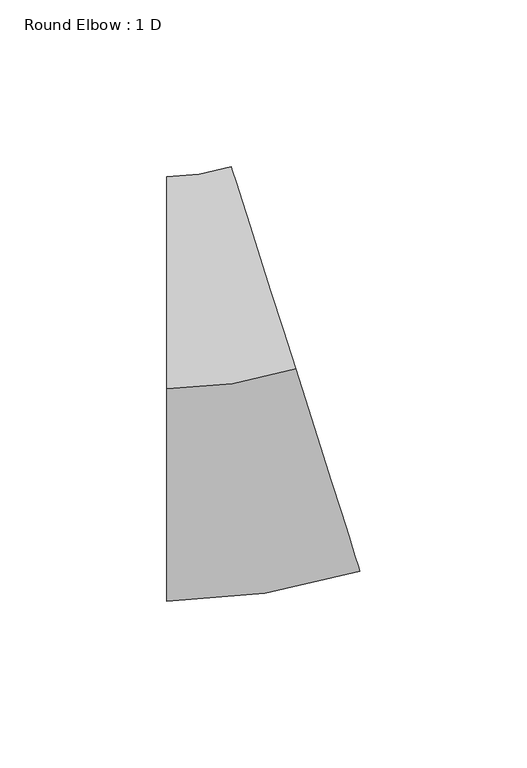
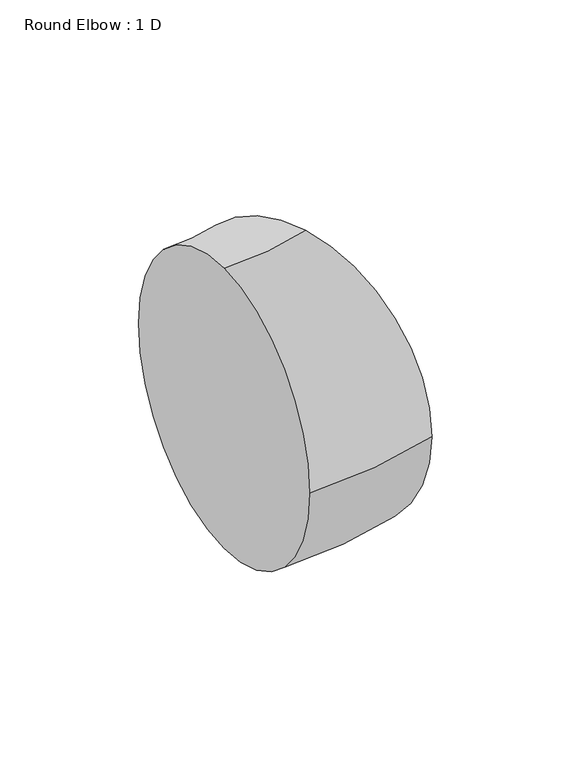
"""IFC4 building model written with IfcOpenShell, lengths in millimetres: duct fitting geometry, Round Elbow : 1 D."""

from ifc_helpers import new_model, si_unit, point, frame, origin, place, context, project, spatial, circle_curve, ellipse_curve, trimmed, source, transform, mapped, element, save
from ifc_brep_helpers import plane_surface, revolved_surface, advanced_brep


def round_elbow_1_d_01278626(model_context):
    return source(origin(), model_context, "Body", "AdvancedBrep", [
        advanced_brep(
        [(-19.724203, 0.0, 63.5), (-19.724203, 63.5, 0.0), (-19.724203, 0.0, -63.5), (-19.724203, -63.5, 0.0), (18.7950873, 5.9823803, 63.5), (38.0547325, -54.5264295, 0.0), (18.7950873, 5.9823803, -63.5), (-0.4645578, 66.4911902, 0.0)],
        [
            (0, 1, circle_curve(frame((-19.724203, 0.0, 0.0), z_axis=(-1.0, 0.0, 0.0), x_axis=(0.0, 1.0, 0.0)), 63.5)),
            (1, 2, circle_curve(frame((-19.724203, 0.0, 0.0), z_axis=(-1.0, 0.0, 0.0), x_axis=(0.0, 1.0, 0.0)), 63.5)),
            (2, 3, circle_curve(frame((-19.724203, 0.0, 0.0), z_axis=(-1.0, 0.0, 0.0), x_axis=(0.0, 1.0, 0.0)), 63.5)),
            (3, 0, circle_curve(frame((-19.724203, 0.0, 0.0), z_axis=(-1.0, 0.0, 0.0), x_axis=(0.0, 1.0, 0.0)), 63.5)),
            (4, 5, circle_curve(frame((18.7950873, 5.9823803, 0.0), z_axis=(0.9528946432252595, 0.3033014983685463, 0.0), x_axis=(-0.3033014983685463, 0.9528946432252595, 0.0)), 63.5)),
            (5, 6, circle_curve(frame((18.7950873, 5.9823803, 0.0), z_axis=(0.9528946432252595, 0.3033014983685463, 0.0), x_axis=(-0.3033014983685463, 0.9528946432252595, 0.0)), 63.5)),
            (6, 7, circle_curve(frame((18.7950873, 5.9823803, 0.0), z_axis=(0.9528946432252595, 0.3033014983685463, 0.0), x_axis=(-0.3033014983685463, 0.9528946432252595, 0.0)), 63.5)),
            (7, 4, circle_curve(frame((18.7950873, 5.9823803, 0.0), z_axis=(0.9528946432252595, 0.3033014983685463, 0.0), x_axis=(-0.3033014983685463, 0.9528946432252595, 0.0)), 63.5)),
            (7, 1, circle_curve(frame((-19.724203, 127.0, 0.0), z_axis=(0.0, 0.0, -1.0), x_axis=(0.0, -1.0, 0.0)), 63.5)),
            (0, 4, circle_curve(frame((-19.724203, 127.0, 63.5), z_axis=(0.0, 0.0, 1.0), x_axis=(0.0, -1.0, 0.0)), 127.0)),
            (6, 2, circle_curve(frame((-19.724203, 127.0, -63.5), z_axis=(0.0, 0.0, -1.0), x_axis=(0.0, -1.0, 0.0)), 127.0)),
            (5, 3, circle_curve(frame((-19.724203, 127.0, 0.0), z_axis=(0.0, 0.0, -1.0), x_axis=(0.0, -1.0, 0.0)), 190.5)),
        ],
        [
            plane_surface(frame((-19.724203, 0.0, 0.0), z_axis=(-1.0, 0.0, 0.0), x_axis=(0.0, 0.0, 1.0))),
            plane_surface(frame((18.7950873, 5.9823803, 0.0), z_axis=(0.9528946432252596, 0.3033014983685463, 0.0), x_axis=(0.0, 0.0, 1.0))),
            revolved_surface(trimmed(ellipse_curve(frame((-19.724203, 0.0, 0.0), z_axis=(-1.0, 0.0, 0.0), x_axis=(0.0, 1.0, 0.0)), 63.5, 63.5), [point((-19.724203, 0.0, 63.5))], [point((-19.724203, 63.5, 0.0))], True, "CARTESIAN"), (-19.724203, 127.0, 0.0), (0.0, 0.0, 1.0)),
            revolved_surface(trimmed(ellipse_curve(frame((-19.724203, 0.0, 0.0), z_axis=(-1.0, 0.0, 0.0), x_axis=(0.0, 1.0, 0.0)), 63.5, 63.5), [point((-19.724203, 63.5, 0.0))], [point((-19.724203, 0.0, -63.5))], True, "CARTESIAN"), (-19.724203, 127.0, 0.0), (0.0, 0.0, 1.0)),
            revolved_surface(trimmed(ellipse_curve(frame((-19.724203, 0.0, 0.0), z_axis=(-1.0, 0.0, 0.0), x_axis=(0.0, 1.0, 0.0)), 63.5, 63.5), [point((-19.724203, 0.0, -63.5))], [point((-19.724203, -63.5, 0.0))], True, "CARTESIAN"), (-19.724203, 127.0, 0.0), (0.0, 0.0, 1.0)),
            revolved_surface(trimmed(ellipse_curve(frame((-19.724203, 0.0, 0.0), z_axis=(-1.0, 0.0, 0.0), x_axis=(0.0, 1.0, 0.0)), 63.5, 63.5), [point((-19.724203, -63.5, 0.0))], [point((-19.724203, 0.0, 63.5))], True, "CARTESIAN"), (-19.724203, 127.0, 0.0), (0.0, 0.0, 1.0)),
        ],
        [
            (0, [[1, 2, 3, 4]]),
            (1, [[5, 6, 7, 8]]),
            (2, [[9, -1, 10, -8]]),
            (3, [[11, -2, -9, -7]]),
            (4, [[12, -3, -11, -6]]),
            (5, [[-10, -4, -12, -5]]),
        ],
    ),
    ])


if __name__ == "__main__":
    model = new_model("IFC4")
    model_context = context("Model", 3, world=origin())
    ifc_project = project(units=[si_unit("LENGTHUNIT", "METRE", prefix="MILLI")], contexts=[model_context])
    site = spatial("IfcSite", under=ifc_project)
    building = spatial("IfcBuilding", under=site)
    placement = place(None, origin())
    round_elbow_1_d_shape = round_elbow_1_d_01278626(model_context)
    element("IfcDuctFitting", 1, ObjectType="Round Elbow : 1 D", at=placement, inside=building, context=model_context, shape_type="MappedRepresentation", body=[
        mapped(round_elbow_1_d_shape, transform((0.0, 0.0, 0.0), x_axis=(1.0, 0.0, 0.0), y_axis=(0.0, 1.0, 0.0), z_axis=(0.0, 0.0, 1.0))),
    ])
    save(model, "model.ifc")
